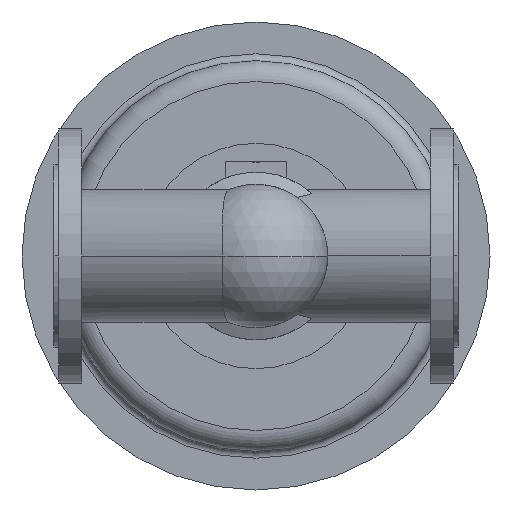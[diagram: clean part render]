
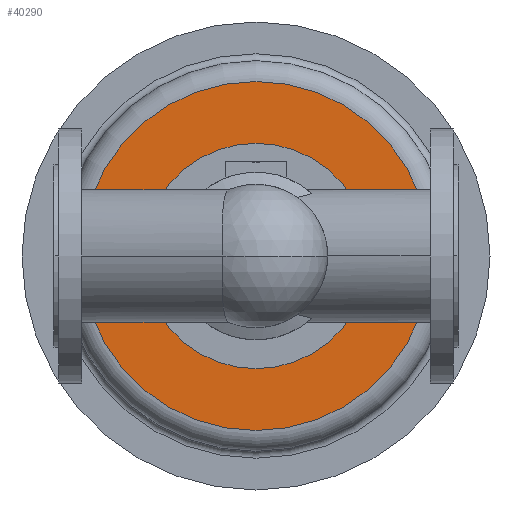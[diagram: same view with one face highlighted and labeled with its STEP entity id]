
A CAD part, front view. The second image highlights one B-rep face of the part: STEP entity #40290.
In plain terms, the highlighted planar face has unit normal (0, -1, 0).
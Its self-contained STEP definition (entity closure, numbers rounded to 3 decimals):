
#35230=CARTESIAN_POINT('',(326.,486.,0.));
#35240=VERTEX_POINT('',#35230);
#35270=CARTESIAN_POINT('',(175.,486.,0.));
#35280=DIRECTION('',(0.,1.,0.));
#35290=DIRECTION('',(1.,0.,0.));
#35300=AXIS2_PLACEMENT_3D('',#35270,#35280,#35290);
#35310=CIRCLE('',#35300,151.);
#35320=CARTESIAN_POINT('',(24.,486.,0.));
#35330=VERTEX_POINT('',#35320);
#35340=EDGE_CURVE('',#35330,#35240,#35310,.T.);
#35560=CARTESIAN_POINT('',(80.,486.,0.));
#35570=VERTEX_POINT('',#35560);
#35620=CARTESIAN_POINT('',(175.,486.,0.));
#35630=DIRECTION('',(0.,1.,0.));
#35640=DIRECTION('',(1.,0.,0.));
#35650=AXIS2_PLACEMENT_3D('',#35620,#35630,#35640);
#35660=CIRCLE('',#35650,95.);
#35670=CARTESIAN_POINT('',(270.,486.,0.));
#35680=VERTEX_POINT('',#35670);
#35690=EDGE_CURVE('',#35570,#35680,#35660,.T.);
#40100=CARTESIAN_POINT('',(298.,486.,0.));
#40110=DIRECTION('',(0.,-1.,0.));
#40120=DIRECTION('',(-1.,0.,0.));
#40130=AXIS2_PLACEMENT_3D('',#40100,#40110,#40120);
#40140=PLANE('',#40130);
#40150=CARTESIAN_POINT('',(175.,486.,-151.));
#40160=VERTEX_POINT('',#40150);
#40170=EDGE_CURVE('',#40160,#35330,#35310,.T.);
#40180=ORIENTED_EDGE('',*,*,#40170,.F.);
#40190=ORIENTED_EDGE('',*,*,#35340,.F.);
#40200=EDGE_CURVE('',#35240,#40160,#35310,.T.);
#40210=ORIENTED_EDGE('',*,*,#40200,.F.);
#40220=EDGE_LOOP('',(#40210,#40190,#40180));
#40230=FACE_OUTER_BOUND('',#40220,.T.);
#40240=EDGE_CURVE('',#35680,#35570,#35660,.T.);
#40250=ORIENTED_EDGE('',*,*,#40240,.T.);
#40260=ORIENTED_EDGE('',*,*,#35690,.T.);
#40270=EDGE_LOOP('',(#40260,#40250));
#40280=FACE_BOUND('',#40270,.T.);
#40290=ADVANCED_FACE('',(#40230,#40280),#40140,.T.);
